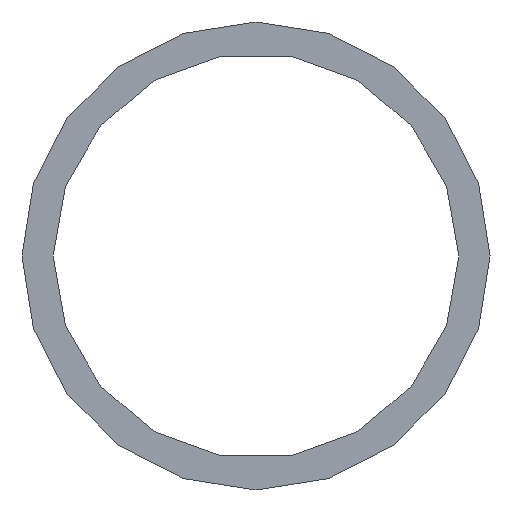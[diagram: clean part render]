
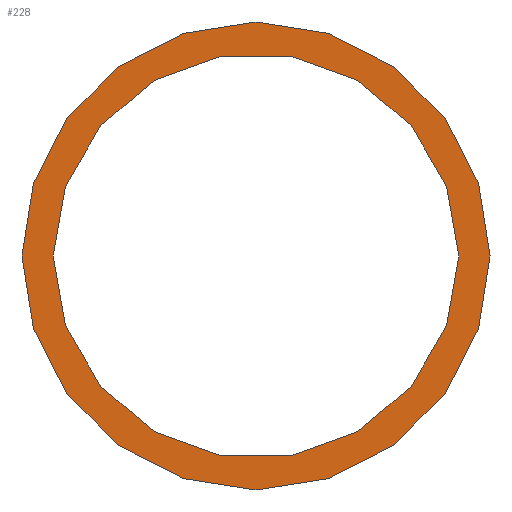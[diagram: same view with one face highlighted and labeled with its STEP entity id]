
A CAD part, left-side view. The second image highlights one B-rep face of the part: STEP entity #228.
In plain terms, the highlighted planar face has unit normal (-1, 0, 0).
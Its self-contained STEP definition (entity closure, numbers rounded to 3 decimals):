
#1 = ORIENTED_EDGE ( 'NONE', *, *, #199, .F. ) ;
#6 = AXIS2_PLACEMENT_3D ( 'NONE', #68, #256, #259 ) ;
#9 = EDGE_CURVE ( 'NONE', #20, #200, #88, .T. ) ;
#20 = VERTEX_POINT ( 'NONE', #282 ) ;
#22 = ORIENTED_EDGE ( 'NONE', *, *, #93, .F. ) ;
#30 = PLANE ( 'NONE',  #293 ) ;
#40 = CARTESIAN_POINT ( 'NONE',  ( -3000., 0., 0. ) ) ;
#45 = ORIENTED_EDGE ( 'NONE', *, *, #9, .F. ) ;
#47 = CARTESIAN_POINT ( 'NONE',  ( -3000., 0., 0. ) ) ;
#57 = AXIS2_PLACEMENT_3D ( 'NONE', #40, #122, #304 ) ;
#65 = CIRCLE ( 'NONE', #249, 6.5 ) ;
#67 = EDGE_CURVE ( 'NONE', #200, #20, #74, .T. ) ;
#68 = CARTESIAN_POINT ( 'NONE',  ( -3000., 0., 0. ) ) ;
#69 = EDGE_LOOP ( 'NONE', ( #45, #221 ) ) ;
#70 = VERTEX_POINT ( 'NONE', #141 ) ;
#74 = CIRCLE ( 'NONE', #57, 7.5 ) ;
#78 = DIRECTION ( 'NONE',  ( 1., 0., 0. ) ) ;
#81 = EDGE_LOOP ( 'NONE', ( #22, #1 ) ) ;
#88 = CIRCLE ( 'NONE', #6, 7.5 ) ;
#92 = CARTESIAN_POINT ( 'NONE',  ( -3000., 0., 0. ) ) ;
#93 = EDGE_CURVE ( 'NONE', #132, #70, #119, .T. ) ;
#104 = CARTESIAN_POINT ( 'NONE',  ( -3000., 0., 0. ) ) ;
#119 = CIRCLE ( 'NONE', #286, 6.5 ) ;
#122 = DIRECTION ( 'NONE',  ( 1., 0., 0. ) ) ;
#132 = VERTEX_POINT ( 'NONE', #285 ) ;
#141 = CARTESIAN_POINT ( 'NONE',  ( -3000., -6.5, 0. ) ) ;
#164 = DIRECTION ( 'NONE',  ( 0., 1., 0. ) ) ;
#168 = DIRECTION ( 'NONE',  ( 0., 1., 0. ) ) ;
#172 = FACE_OUTER_BOUND ( 'NONE', #69, .T. ) ;
#187 = DIRECTION ( 'NONE',  ( -1., 0., 0. ) ) ;
#199 = EDGE_CURVE ( 'NONE', #70, #132, #65, .T. ) ;
#200 = VERTEX_POINT ( 'NONE', #264 ) ;
#221 = ORIENTED_EDGE ( 'NONE', *, *, #67, .F. ) ;
#228 = ADVANCED_FACE ( 'NONE', ( #263, #172 ), #30, .F. ) ;
#249 = AXIS2_PLACEMENT_3D ( 'NONE', #47, #260, #284 ) ;
#256 = DIRECTION ( 'NONE',  ( 1., 0., 0. ) ) ;
#259 = DIRECTION ( 'NONE',  ( 0., 1., 0. ) ) ;
#260 = DIRECTION ( 'NONE',  ( -1., 0., 0. ) ) ;
#263 = FACE_BOUND ( 'NONE', #81, .T. ) ;
#264 = CARTESIAN_POINT ( 'NONE',  ( -3000., -7.5, 0. ) ) ;
#282 = CARTESIAN_POINT ( 'NONE',  ( -3000., 7.5, 0. ) ) ;
#284 = DIRECTION ( 'NONE',  ( 0., 1., 0. ) ) ;
#285 = CARTESIAN_POINT ( 'NONE',  ( -3000., 6.5, 0. ) ) ;
#286 = AXIS2_PLACEMENT_3D ( 'NONE', #92, #187, #164 ) ;
#293 = AXIS2_PLACEMENT_3D ( 'NONE', #104, #78, #168 ) ;
#304 = DIRECTION ( 'NONE',  ( 0., 1., 0. ) ) ;
